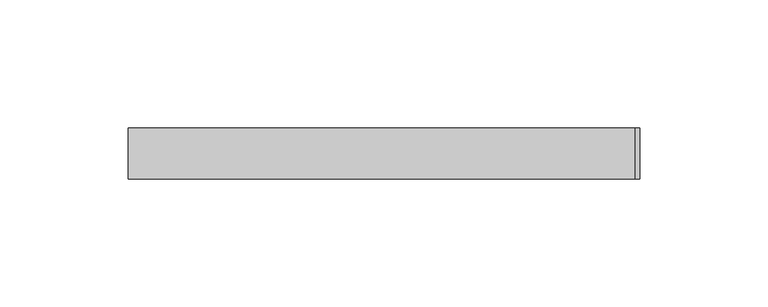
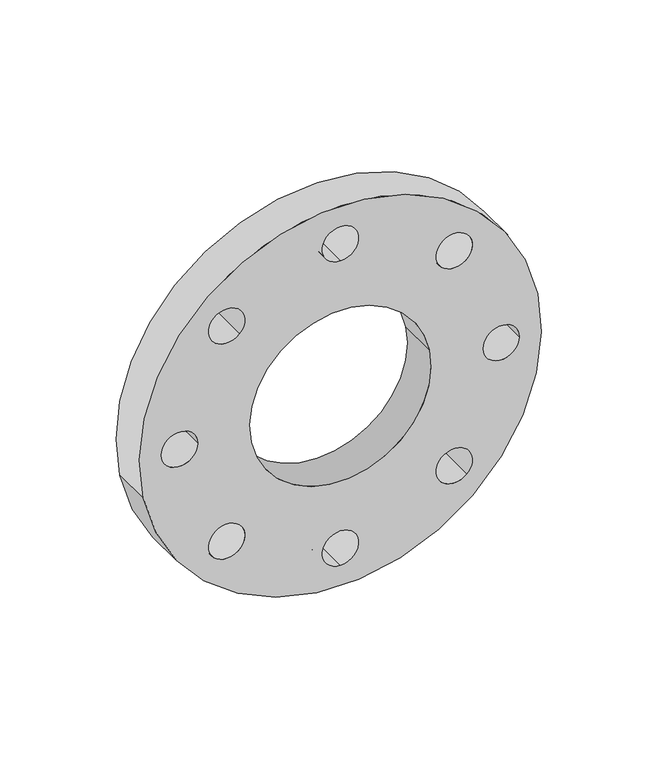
"""IFC4 building model written with IfcOpenShell, lengths in millimetres: pipe fitting geometry, 01051019 : Bridas."""

from ifc_helpers import new_model, si_unit, point, frame, frame_2d, origin, origin_2d, place, context, project, spatial, circle_curve, trimmed, segment, composite_curve, outline, extrude, source, transform, mapped, element, save


def pipe_fitting_4b37e60b(model_context):
    return source(origin(), model_context, "Body", "SweptSolid", [
        extrude(outline(composite_curve([segment(trimmed(circle_curve(origin_2d(), 100.0), [point((-19.5090322, -98.078528))], [point((19.5090322, 98.078528))], False, "CARTESIAN"), True, "CONTINUOUS"), segment(trimmed(circle_curve(origin_2d(), 100.0), [point((19.5090322, 98.078528))], [point((-19.5090322, -98.078528))], False, "CARTESIAN"), True, "CONTINUOUS")], self_intersect=False), holes=[composite_curve([segment(trimmed(circle_curve(origin_2d(), 45.0), [point((-8.7790645, -44.1353376))], [point((8.7790645, 44.1353376))], True, "CARTESIAN"), True, "CONTINUOUS"), segment(trimmed(circle_curve(origin_2d(), 45.0), [point((8.7790645, 44.1353376))], [point((-8.7790645, -44.1353376))], True, "CARTESIAN"), True, "CONTINUOUS")], self_intersect=False), composite_curve([segment(trimmed(circle_curve(frame_2d((0.0, -80.0)), 9.0), [point((0.0, -71.0))], [point((0.0, -89.0))], True, "CARTESIAN"), True, "CONTINUOUS"), segment(trimmed(circle_curve(frame_2d((0.0, -80.0)), 9.0), [point((0.0, -89.0))], [point((0.0, -71.0))], True, "CARTESIAN"), True, "CONTINUOUS")], self_intersect=False), composite_curve([segment(trimmed(circle_curve(frame_2d((56.5685425, -56.5685425)), 9.0), [point((50.2045815, -50.2045815))], [point((62.9325035, -62.9325035))], True, "CARTESIAN"), True, "CONTINUOUS"), segment(trimmed(circle_curve(frame_2d((56.5685425, -56.5685425)), 9.0), [point((62.9325035, -62.9325035))], [point((50.2045815, -50.2045815))], True, "CARTESIAN"), True, "CONTINUOUS")], self_intersect=False), composite_curve([segment(trimmed(circle_curve(frame_2d((-56.5685425, -56.5685425)), 9.0), [point((-50.2045815, -50.2045815))], [point((-62.9325035, -62.9325035))], True, "CARTESIAN"), True, "CONTINUOUS"), segment(trimmed(circle_curve(frame_2d((-56.5685425, -56.5685425)), 9.0), [point((-62.9325035, -62.9325035))], [point((-50.2045815, -50.2045815))], True, "CARTESIAN"), True, "CONTINUOUS")], self_intersect=False), composite_curve([segment(trimmed(circle_curve(frame_2d((-80.0, 0.0)), 9.0), [point((-71.0, 0.0))], [point((-89.0, 0.0))], True, "CARTESIAN"), True, "CONTINUOUS"), segment(trimmed(circle_curve(frame_2d((-80.0, 0.0)), 9.0), [point((-89.0, 0.0))], [point((-71.0, 0.0))], True, "CARTESIAN"), True, "CONTINUOUS")], self_intersect=False), composite_curve([segment(trimmed(circle_curve(frame_2d((-56.5685425, 56.5685425)), 9.0), [point((-50.2045815, 50.2045815))], [point((-62.9325035, 62.9325035))], True, "CARTESIAN"), True, "CONTINUOUS"), segment(trimmed(circle_curve(frame_2d((-56.5685425, 56.5685425)), 9.0), [point((-62.9325035, 62.9325035))], [point((-50.2045815, 50.2045815))], True, "CARTESIAN"), True, "CONTINUOUS")], self_intersect=False), composite_curve([segment(trimmed(circle_curve(frame_2d((0.0, 80.0)), 9.0), [point((0.0, 71.0))], [point((0.0, 89.0))], True, "CARTESIAN"), True, "CONTINUOUS"), segment(trimmed(circle_curve(frame_2d((0.0, 80.0)), 9.0), [point((0.0, 89.0))], [point((0.0, 71.0))], True, "CARTESIAN"), True, "CONTINUOUS")], self_intersect=False), composite_curve([segment(trimmed(circle_curve(frame_2d((56.5685425, 56.5685425)), 9.0), [point((50.2045815, 50.2045815))], [point((62.9325035, 62.9325035))], True, "CARTESIAN"), True, "CONTINUOUS"), segment(trimmed(circle_curve(frame_2d((56.5685425, 56.5685425)), 9.0), [point((62.9325035, 62.9325035))], [point((50.2045815, 50.2045815))], True, "CARTESIAN"), True, "CONTINUOUS")], self_intersect=False), composite_curve([segment(trimmed(circle_curve(frame_2d((80.0, 0.0)), 9.0), [point((71.0, 0.0))], [point((89.0, 0.0))], True, "CARTESIAN"), True, "CONTINUOUS"), segment(trimmed(circle_curve(frame_2d((80.0, 0.0)), 9.0), [point((89.0, 0.0))], [point((71.0, 0.0))], True, "CARTESIAN"), True, "CONTINUOUS")], self_intersect=False)]), frame((0.0, -10.0, 0.0), z_axis=(0.0, 1.0, 0.0), x_axis=(0.0, 0.0, 1.0)), (0.0, 0.0, 1.0), 20.0),
    ])


if __name__ == "__main__":
    model = new_model("IFC4")
    model_context = context("Model", 3, world=origin())
    ifc_project = project(units=[si_unit("LENGTHUNIT", "METRE", prefix="MILLI")], contexts=[model_context])
    site = spatial("IfcSite", under=ifc_project)
    building = spatial("IfcBuilding", under=site)
    placement = place(None, origin())
    pipe_fitting_shape = pipe_fitting_4b37e60b(model_context)
    element("IfcPipeFitting", 1, ObjectType="01051019 : Bridas", at=placement, inside=building, context=model_context, shape_type="MappedRepresentation", body=[
        mapped(pipe_fitting_shape, transform((0.0, 0.0, 0.0), x_axis=(1.0, 0.0, 0.0), y_axis=(0.0, 1.0, 0.0), z_axis=(0.0, 0.0, 1.0))),
    ])
    save(model, "model.ifc")
